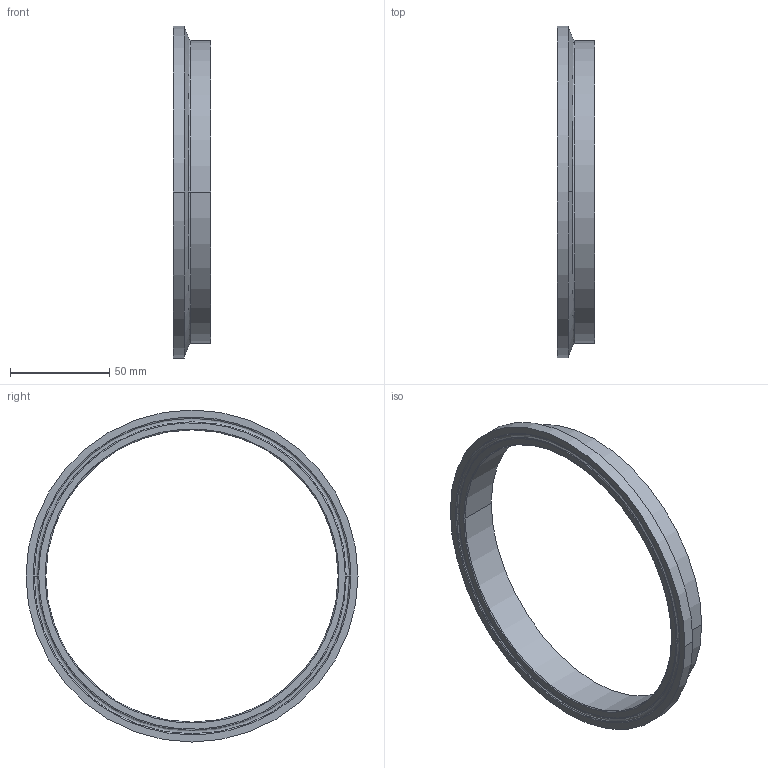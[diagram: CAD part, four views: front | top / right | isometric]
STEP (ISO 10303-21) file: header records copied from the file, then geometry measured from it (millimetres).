
FILE_DESCRIPTION (( 'STEP AP214' ), '1' );
FILE_NAME ('TEG2CS6L6.0.STEP', '2016-05-22T12:04:25', ( 'eran' ), ( '' ), 'SwSTEP 2.0', 'SolidWorks 2016', '' );
FILE_SCHEMA (( 'AUTOMOTIVE_DESIGN' ));
Length unit declared in the file: millimetre
Products named in the file (1): TEG2CS6L6.0
Bounding box: 19.1 x 166.88 x 166.88 mm (x, y, z)
Volume: 49241.9 mm3; surface area: 27170.2 mm2
Topology: 1 solids, 1 shells, 25 faces, 62 edges, 40 vertices
Faces by surface type: bspline 10, cylinder 6, cone 6, plane 3
Entity records: 1881 total; most frequent: CARTESIAN_POINT 1256, DIRECTION 132, ORIENTED_EDGE 124, EDGE_CURVE 62, AXIS2_PLACEMENT_3D 60, CIRCLE 44, VERTEX_POINT 40, EDGE_LOOP 28
